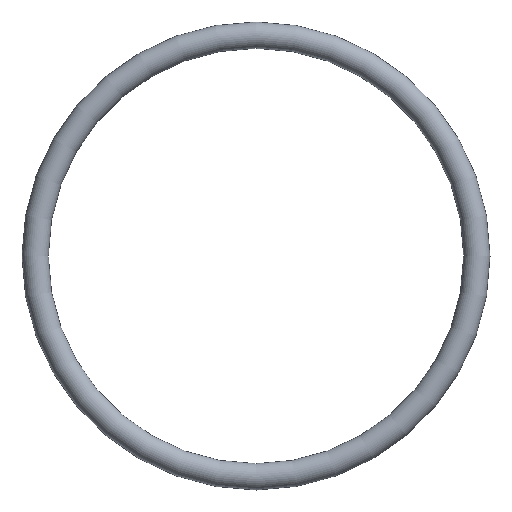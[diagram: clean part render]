
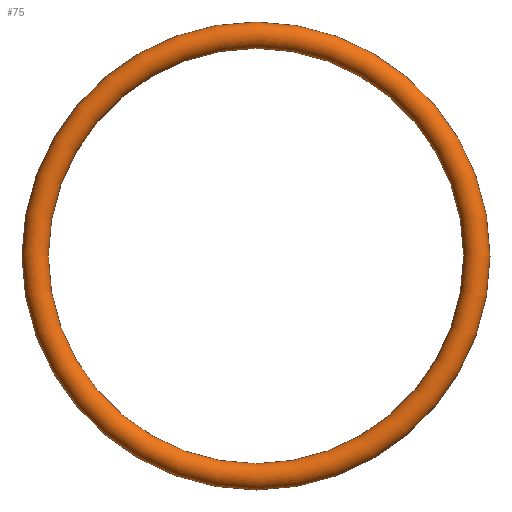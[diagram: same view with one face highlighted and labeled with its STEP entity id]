
A CAD part, front view. The second image highlights one B-rep face of the part: STEP entity #75.
In plain terms, the highlighted toroidal (fillet/blend) face has major radius 29.545 mm and minor radius 1.765 mm.
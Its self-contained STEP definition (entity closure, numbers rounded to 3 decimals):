
#75 = ADVANCED_FACE( '', ( #77 ), #78, .T. );
#77 = FACE_BOUND( '', #79, .T. );
#78 = TOROIDAL_SURFACE( '', #80, 29.545, 1.765 );
#79 = VERTEX_LOOP( '', #81 );
#80 = AXIS2_PLACEMENT_3D( '', #82, #83, #84 );
#81 = VERTEX_POINT( '', #85 );
#82 = CARTESIAN_POINT( '', ( 0., 0., 0. ) );
#83 = DIRECTION( '', ( 0., -1., 0. ) );
#84 = DIRECTION( '', ( 0., 0., -1. ) );
#85 = CARTESIAN_POINT( '', ( 0., 0., -31.31 ) );
